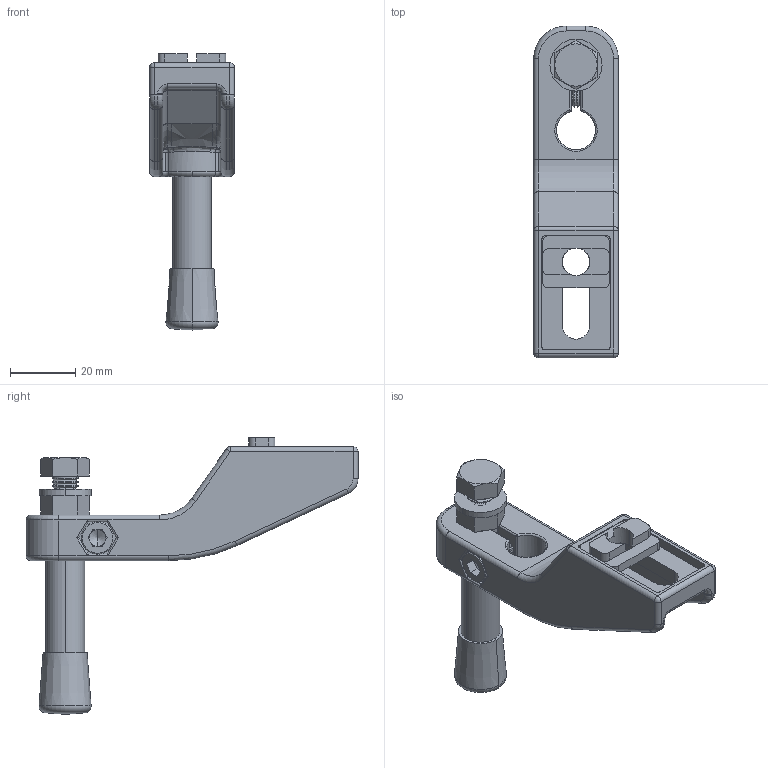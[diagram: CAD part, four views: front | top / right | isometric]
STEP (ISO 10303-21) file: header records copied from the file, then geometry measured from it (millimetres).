
FILE_DESCRIPTION (( 'STEP AP203' ), '1' );
FILE_NAME ('084.711.006.STEP', '2014-02-11T11:21:28', ( '' ), ( '' ), 'SwSTEP 2.0', 'SolidWorks 2012', '' );
FILE_SCHEMA (( 'CONFIG_CONTROL_DESIGN' ));
Length unit declared in the file: millimetre
Products named in the file (8): 084.711.006; ISO 4018 - M8 x 20-NS_ISO 4018 - M8 x 20-NS; Hexagon Nut ISO - 4036 - M6 - N_Hexagon Nut ISO - 4036 - M6 - N; ISO 4762 M6 x 20 --- 20S_ISO 4762 M6 x 20 --- 20S; 084.711.005; 084.711.007; 084.711.006_L2; 084.711.006_L1
Assembly tree (7 placements, depth 2):
  084.711.006
    084.711.006_L1
    084.711.006_L2
    084.711.007
    084.711.005
    ISO 4762 M6 x 20 --- 20S_ISO 4762 M6 x 20 --- 20S
    Hexagon Nut ISO - 4036 - M6 - N_Hexagon Nut ISO - 4036 - M6 - N
    ISO 4018 - M8 x 20-NS_ISO 4018 - M8 x 20-NS
Bounding box: 26 x 102 x 85.02 mm (x, y, z)
Volume: 35178.9 mm3; surface area: 22480.7 mm2
Topology: 7 solids, 7 shells, 471 faces, 1159 edges, 698 vertices
Faces by surface type: cylinder 166, cone 152, plane 95, torus 36, sphere 12, bspline 10
Entity records: 15062 total; most frequent: CARTESIAN_POINT 2811, DIRECTION 2636, ORIENTED_EDGE 2298, EDGE_CURVE 1149, AXIS2_PLACEMENT_3D 1059, VERTEX_POINT 698, CIRCLE 588, VECTOR 518
